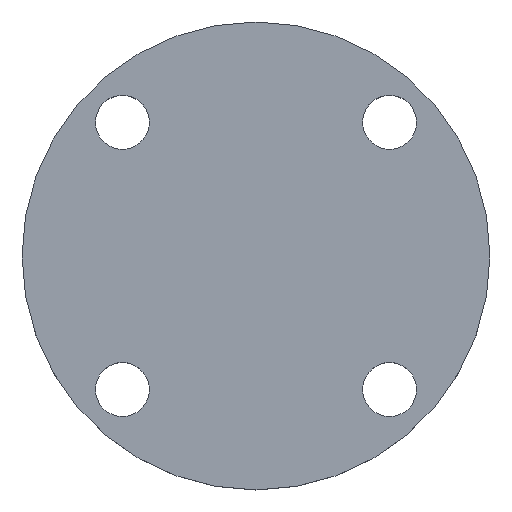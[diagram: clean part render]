
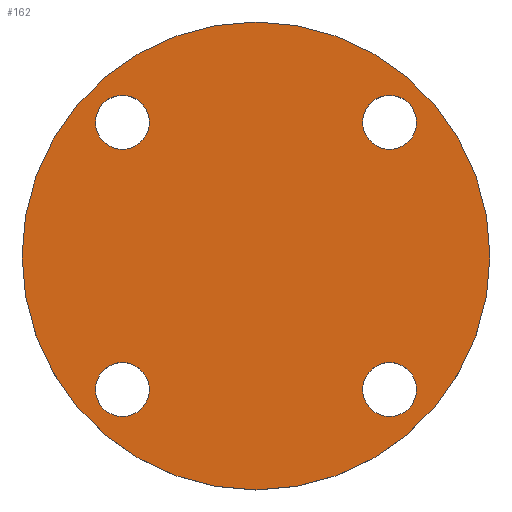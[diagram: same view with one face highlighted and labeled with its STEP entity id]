
A CAD part, top view. The second image highlights one B-rep face of the part: STEP entity #162.
In plain terms, the highlighted planar face has unit normal (0, 0, 1).
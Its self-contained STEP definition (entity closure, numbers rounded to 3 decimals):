
#15=FACE_BOUND('',#38,.T.);
#16=FACE_BOUND('',#39,.T.);
#17=FACE_BOUND('',#40,.T.);
#18=FACE_BOUND('',#41,.T.);
#23=PLANE('',#205);
#30=FACE_OUTER_BOUND('',#37,.T.);
#37=EDGE_LOOP('',(#136,#137));
#38=EDGE_LOOP('',(#138,#139));
#39=EDGE_LOOP('',(#140,#141));
#40=EDGE_LOOP('',(#142,#143));
#41=EDGE_LOOP('',(#144,#145));
#57=CIRCLE('',#185,7.5);
#58=CIRCLE('',#186,7.5);
#60=CIRCLE('',#189,7.5);
#61=CIRCLE('',#190,7.5);
#63=CIRCLE('',#193,7.5);
#64=CIRCLE('',#194,7.5);
#66=CIRCLE('',#197,7.5);
#67=CIRCLE('',#198,7.5);
#69=CIRCLE('',#201,65.);
#70=CIRCLE('',#202,65.);
#73=VERTEX_POINT('',#262);
#74=VERTEX_POINT('',#263);
#76=VERTEX_POINT('',#270);
#77=VERTEX_POINT('',#271);
#79=VERTEX_POINT('',#278);
#80=VERTEX_POINT('',#279);
#82=VERTEX_POINT('',#286);
#83=VERTEX_POINT('',#287);
#85=VERTEX_POINT('',#294);
#86=VERTEX_POINT('',#295);
#89=EDGE_CURVE('',#73,#74,#57,.T.);
#90=EDGE_CURVE('',#74,#73,#58,.T.);
#93=EDGE_CURVE('',#76,#77,#60,.T.);
#94=EDGE_CURVE('',#77,#76,#61,.T.);
#97=EDGE_CURVE('',#79,#80,#63,.T.);
#98=EDGE_CURVE('',#80,#79,#64,.T.);
#101=EDGE_CURVE('',#82,#83,#66,.T.);
#102=EDGE_CURVE('',#83,#82,#67,.T.);
#105=EDGE_CURVE('',#85,#86,#69,.T.);
#106=EDGE_CURVE('',#86,#85,#70,.T.);
#136=ORIENTED_EDGE('',*,*,#105,.T.);
#137=ORIENTED_EDGE('',*,*,#106,.T.);
#138=ORIENTED_EDGE('',*,*,#89,.T.);
#139=ORIENTED_EDGE('',*,*,#90,.T.);
#140=ORIENTED_EDGE('',*,*,#93,.T.);
#141=ORIENTED_EDGE('',*,*,#94,.T.);
#142=ORIENTED_EDGE('',*,*,#97,.T.);
#143=ORIENTED_EDGE('',*,*,#98,.T.);
#144=ORIENTED_EDGE('',*,*,#101,.T.);
#145=ORIENTED_EDGE('',*,*,#102,.T.);
#162=ADVANCED_FACE('',(#30,#15,#16,#17,#18),#23,.T.);
#185=AXIS2_PLACEMENT_3D('',#264,#211,#212);
#186=AXIS2_PLACEMENT_3D('',#265,#213,#214);
#189=AXIS2_PLACEMENT_3D('',#272,#220,#221);
#190=AXIS2_PLACEMENT_3D('',#273,#222,#223);
#193=AXIS2_PLACEMENT_3D('',#280,#229,#230);
#194=AXIS2_PLACEMENT_3D('',#281,#231,#232);
#197=AXIS2_PLACEMENT_3D('',#288,#238,#239);
#198=AXIS2_PLACEMENT_3D('',#289,#240,#241);
#201=AXIS2_PLACEMENT_3D('',#296,#247,#248);
#202=AXIS2_PLACEMENT_3D('',#297,#249,#250);
#205=AXIS2_PLACEMENT_3D('',#303,#256,#257);
#211=DIRECTION('center_axis',(0.,0.,-1.));
#212=DIRECTION('ref_axis',(0.,-1.,0.));
#213=DIRECTION('center_axis',(0.,0.,-1.));
#214=DIRECTION('ref_axis',(0.,-1.,0.));
#220=DIRECTION('center_axis',(0.,0.,-1.));
#221=DIRECTION('ref_axis',(-1.,0.,0.));
#222=DIRECTION('center_axis',(0.,0.,-1.));
#223=DIRECTION('ref_axis',(-1.,0.,0.));
#229=DIRECTION('center_axis',(0.,0.,-1.));
#230=DIRECTION('ref_axis',(0.,1.,0.));
#231=DIRECTION('center_axis',(0.,0.,-1.));
#232=DIRECTION('ref_axis',(0.,1.,0.));
#238=DIRECTION('center_axis',(0.,0.,-1.));
#239=DIRECTION('ref_axis',(1.,0.,0.));
#240=DIRECTION('center_axis',(0.,0.,-1.));
#241=DIRECTION('ref_axis',(1.,0.,0.));
#247=DIRECTION('center_axis',(0.,0.,1.));
#248=DIRECTION('ref_axis',(1.,0.,0.));
#249=DIRECTION('center_axis',(0.,0.,1.));
#250=DIRECTION('ref_axis',(1.,0.,0.));
#256=DIRECTION('center_axis',(0.,0.,1.));
#257=DIRECTION('ref_axis',(1.,0.,0.));
#262=CARTESIAN_POINT('',(37.123,29.623,14.));
#263=CARTESIAN_POINT('',(37.123,44.623,14.));
#264=CARTESIAN_POINT('Origin',(37.123,37.123,14.));
#265=CARTESIAN_POINT('Origin',(37.123,37.123,14.));
#270=CARTESIAN_POINT('',(29.623,-37.123,14.));
#271=CARTESIAN_POINT('',(44.623,-37.123,14.));
#272=CARTESIAN_POINT('Origin',(37.123,-37.123,14.));
#273=CARTESIAN_POINT('Origin',(37.123,-37.123,14.));
#278=CARTESIAN_POINT('',(-37.123,-29.623,14.));
#279=CARTESIAN_POINT('',(-37.123,-44.623,14.));
#280=CARTESIAN_POINT('Origin',(-37.123,-37.123,14.));
#281=CARTESIAN_POINT('Origin',(-37.123,-37.123,14.));
#286=CARTESIAN_POINT('',(-29.623,37.123,14.));
#287=CARTESIAN_POINT('',(-44.623,37.123,14.));
#288=CARTESIAN_POINT('Origin',(-37.123,37.123,14.));
#289=CARTESIAN_POINT('Origin',(-37.123,37.123,14.));
#294=CARTESIAN_POINT('',(65.,0.,14.));
#295=CARTESIAN_POINT('',(-65.,0.,14.));
#296=CARTESIAN_POINT('Origin',(0.,0.,14.));
#297=CARTESIAN_POINT('Origin',(0.,0.,14.));
#303=CARTESIAN_POINT('Origin',(0.,0.,14.));
